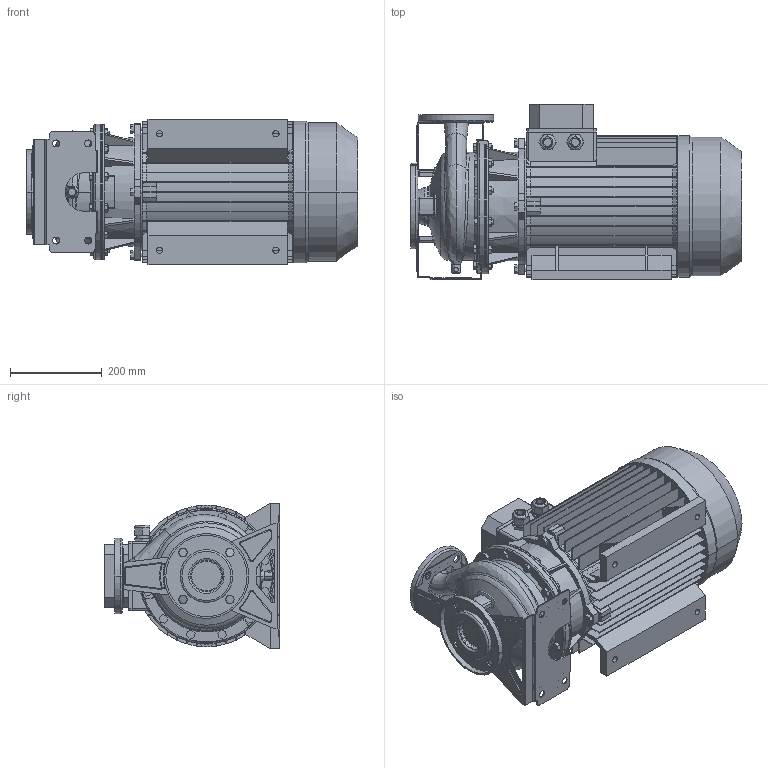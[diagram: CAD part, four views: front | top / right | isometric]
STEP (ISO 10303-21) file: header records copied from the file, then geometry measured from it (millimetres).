
FILE_DESCRIPTION((''),'2;1');
FILE_NAME('3M_50-200_15_IE2_ASM','2011-04-22T',('Utente'),('"Ebara Pumps Europe +39.444.706811"'),'PRO/ENGINEER BY PARAMETRIC TECHNOLOGY CORPORATION, 2009360','PRO/ENGINEER BY PARAMETRIC TECHNOLOGY CORPORATION, 2009360','');
FILE_SCHEMA(('AUTOMOTIVE_DESIGN { 1 0 10303 214 1 1 1 1 }'));
Length unit declared in the file: millimetre
Products named in the file (10): CORPO_50-200; ASP_50-200; FLANGIA_DIN_65; MAND_50-200; FLANGIA_DIN_50; BASE_3M_50-200; CORPO_SALDATO_50-200_ASM; SUPPORTO_3M_230_160; MEC_160X170_210_250_IE2; 3M_50-200_15_IE2_ASM
Assembly tree (9 placements, depth 3):
  3M_50-200_15_IE2_ASM
    CORPO_SALDATO_50-200_ASM
      CORPO_50-200
      ASP_50-200
      FLANGIA_DIN_65
      MAND_50-200
      FLANGIA_DIN_50
      BASE_3M_50-200
    SUPPORTO_3M_230_160
    MEC_160X170_210_250_IE2
Bounding box: 723 x 383 x 318 mm (x, y, z)
Volume: 24993569.4 mm3; surface area: 2569577.9 mm2
Topology: 11 solids, 13 shells, 1249 faces, 3184 edges, 2036 vertices
Faces by surface type: plane 724, cylinder 331, cone 96, torus 62, bspline 30, sphere 6
Entity records: 47181 total; most frequent: CARTESIAN_POINT 9981, DIRECTION 6493, ORIENTED_EDGE 6368, EDGE_CURVE 3184, AXIS2_PLACEMENT_3D 2282, VERTEX_POINT 2036, VECTOR 1929, LINE 1929
